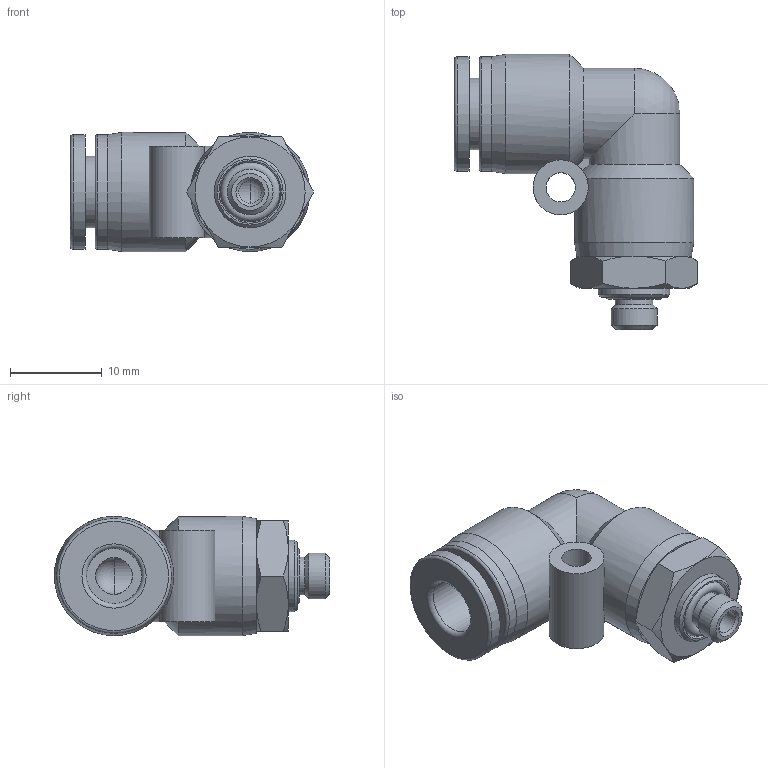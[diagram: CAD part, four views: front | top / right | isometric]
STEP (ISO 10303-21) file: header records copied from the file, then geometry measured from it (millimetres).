
FILE_DESCRIPTION( ( 'STEP AP203' ), '1' );
FILE_NAME( 'D:/ZHUOMIAN/IPL06-M5.stp', ' ', ( ' ' ), ( ' ' ), 'PSStep 15.0.47', 'PARTsolutions', ' ' );
FILE_SCHEMA( ( 'CONFIG_CONTROL_DESIGN' ) );
Length unit declared in the file: millimetre
Products named in the file (1): HI_IPL06-M5
Bounding box: 26.53 x 30 x 13 mm (x, y, z)
Volume: 3689.4 mm3; surface area: 2828.9 mm2
Topology: 1 solids, 2 shells, 67 faces, 151 edges, 91 vertices
Faces by surface type: cone 23, plane 20, cylinder 17, torus 5, sphere 2
Full cylindrical faces by diameter (mm): 2.5 x1, 3.2 x1, 4 x1, 4.1 x2, 4.5 x1, 5 x1, 6 x2, 7.8 x2, 12.5 x2, 13 x2
Entity records: 1872 total; most frequent: CARTESIAN_POINT 538, DIRECTION 272, ORIENTED_EDGE 218, AXIS2_PLACEMENT_3D 130, EDGE_CURVE 109, EDGE_LOOP 108, FACE_OUTER_BOUND 87, VERTEX_POINT 82
